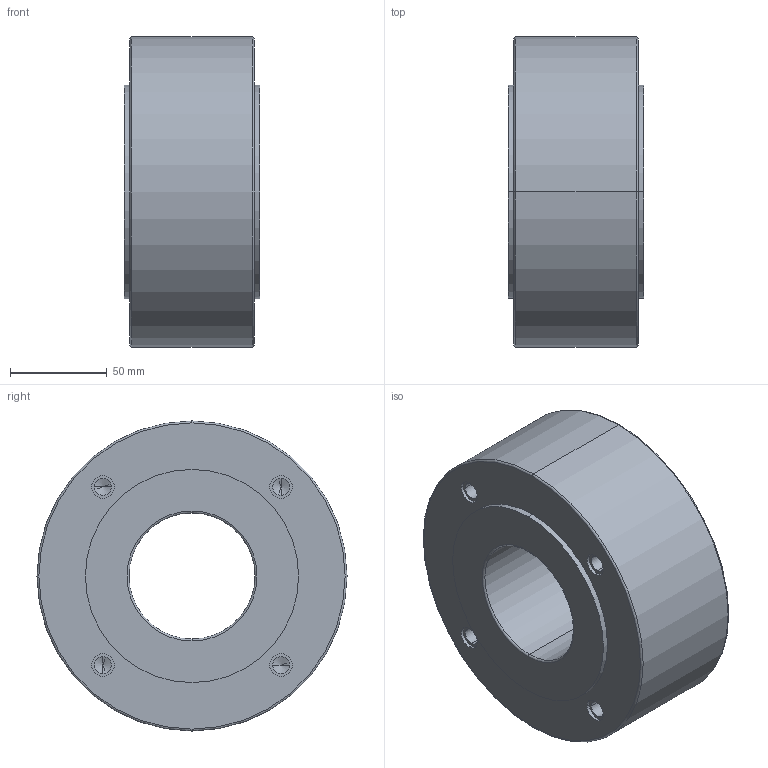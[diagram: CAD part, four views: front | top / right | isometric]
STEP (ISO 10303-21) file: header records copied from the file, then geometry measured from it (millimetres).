
FILE_DESCRIPTION (( 'STEP AP203' ), '1' );
FILE_NAME ('W8_PN06_DN065.STEP', '2012-10-31T07:09:12', ( 'luca.saino' ), ( 'Hewlett-Packard Company' ), 'SwSTEP 2.0', 'SolidWorks 2012', '' );
FILE_SCHEMA (( 'CONFIG_CONTROL_DESIGN' ));
Length unit declared in the file: millimetre
Products named in the file (1): W8_PN06_DN065
Bounding box: 70 x 160 x 160 mm (x, y, z)
Volume: 1104122.8 mm3; surface area: 84537.9 mm2
Topology: 1 solids, 1 shells, 76 faces, 168 edges, 96 vertices
Faces by surface type: cylinder 40, cone 16, plane 12, torus 8
Entity records: 2085 total; most frequent: DIRECTION 402, CARTESIAN_POINT 325, ORIENTED_EDGE 304, AXIS2_PLACEMENT_3D 173, EDGE_CURVE 152, CIRCLE 96, EDGE_LOOP 96, VERTEX_POINT 96
